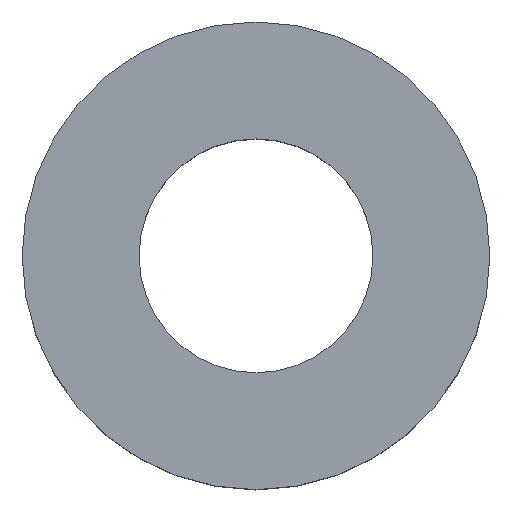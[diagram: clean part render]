
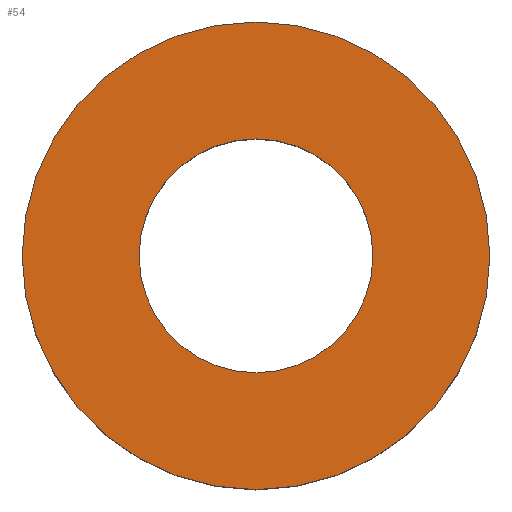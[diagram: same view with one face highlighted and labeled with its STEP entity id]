
A CAD part, top view. The second image highlights one B-rep face of the part: STEP entity #54.
In plain terms, the highlighted planar face has unit normal (0, 0, 1).
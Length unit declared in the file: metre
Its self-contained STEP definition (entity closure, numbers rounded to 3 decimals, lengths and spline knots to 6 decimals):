
#12=PLANE('',#75);
#18=ORIENTED_EDGE('',*,*,#22,.F.);
#19=ORIENTED_EDGE('',*,*,#24,.T.);
#22=EDGE_CURVE('',#26,#26,#30,.T.);
#24=EDGE_CURVE('',#28,#28,#32,.T.);
#26=VERTEX_POINT('',#98);
#28=VERTEX_POINT('',#103);
#30=CIRCLE('',#70,0.001);
#32=CIRCLE('',#73,0.002);
#38=EDGE_LOOP('',(#18));
#39=EDGE_LOOP('',(#19));
#46=FACE_BOUND('',#38,.T.);
#47=FACE_BOUND('',#39,.T.);
#54=ADVANCED_FACE('',(#46,#47),#12,.T.);
#70=AXIS2_PLACEMENT_3D('',#97,#81,#82);
#73=AXIS2_PLACEMENT_3D('',#102,#87,#88);
#75=AXIS2_PLACEMENT_3D('',#106,#91,#92);
#81=DIRECTION('',(0.,0.,1.));
#82=DIRECTION('',(1.,0.,0.));
#87=DIRECTION('',(0.,0.,1.));
#88=DIRECTION('',(1.,0.,0.));
#91=DIRECTION('',(0.,0.,1.));
#92=DIRECTION('',(1.,0.,0.));
#97=CARTESIAN_POINT('',(0.,0.,0.0015));
#98=CARTESIAN_POINT('',(0.001,0.,0.0015));
#102=CARTESIAN_POINT('',(0.,0.,0.0015));
#103=CARTESIAN_POINT('',(0.002,0.,0.0015));
#106=CARTESIAN_POINT('',(0.,0.,0.0015));
